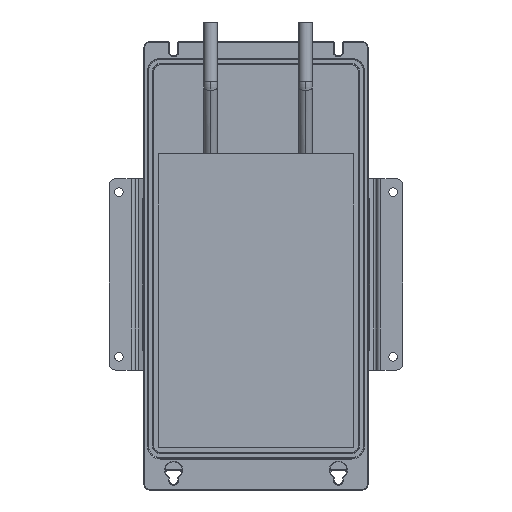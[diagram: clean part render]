
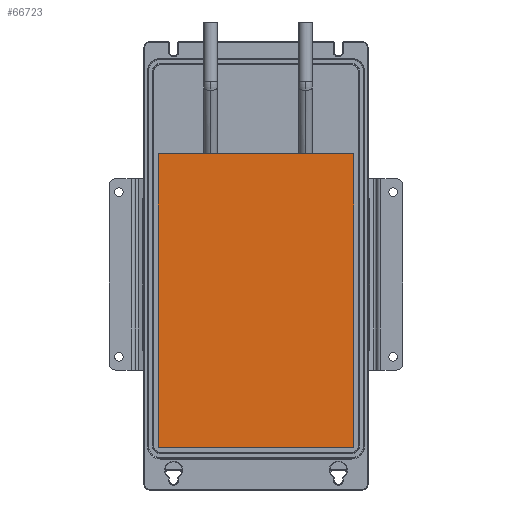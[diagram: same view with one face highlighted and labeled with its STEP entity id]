
A CAD part, front view. The second image highlights one B-rep face of the part: STEP entity #66723.
In plain terms, the highlighted planar face has unit normal (0, -1, 0).
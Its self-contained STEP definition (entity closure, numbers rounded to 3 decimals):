
#774 = CARTESIAN_POINT ( 'NONE',  ( 74., -19.5, -5. ) ) ;
#1242 = EDGE_CURVE ( 'NONE', #57552, #25046, #53733, .T. ) ;
#4278 = VECTOR ( 'NONE', #6607, 1000. ) ;
#6607 = DIRECTION ( 'NONE',  ( 1., 0., 0. ) ) ;
#8353 = ORIENTED_EDGE ( 'NONE', *, *, #1242, .T. ) ;
#9716 = ORIENTED_EDGE ( 'NONE', *, *, #43840, .T. ) ;
#10155 = CARTESIAN_POINT ( 'NONE',  ( -74., -19.5, -5. ) ) ;
#10475 = ORIENTED_EDGE ( 'NONE', *, *, #25286, .T. ) ;
#10539 = LINE ( 'NONE', #40333, #36412 ) ;
#11304 = DIRECTION ( 'NONE',  ( 0., 0., 1. ) ) ;
#11431 = ORIENTED_EDGE ( 'NONE', *, *, #14997, .T. ) ;
#14997 = EDGE_CURVE ( 'NONE', #71606, #67697, #35208, .T. ) ;
#17205 = FACE_OUTER_BOUND ( 'NONE', #39332, .T. ) ;
#19971 = AXIS2_PLACEMENT_3D ( 'NONE', #47401, #53600, #65562 ) ;
#23086 = CARTESIAN_POINT ( 'NONE',  ( 74., -19.5, -5. ) ) ;
#24293 = DIRECTION ( 'NONE',  ( -1., 0., 0. ) ) ;
#25046 = VERTEX_POINT ( 'NONE', #36127 ) ;
#25286 = EDGE_CURVE ( 'NONE', #67697, #57552, #10539, .T. ) ;
#25349 = VECTOR ( 'NONE', #44588, 1000. ) ;
#35208 = LINE ( 'NONE', #65388, #4278 ) ;
#36127 = CARTESIAN_POINT ( 'NONE',  ( -74., -19.5, -5. ) ) ;
#36412 = VECTOR ( 'NONE', #11304, 1000. ) ;
#39332 = EDGE_LOOP ( 'NONE', ( #10475, #8353, #9716, #11431 ) ) ;
#40333 = CARTESIAN_POINT ( 'NONE',  ( 74., -19.5, -5. ) ) ;
#42683 = VECTOR ( 'NONE', #24293, 1000. ) ;
#42819 = CARTESIAN_POINT ( 'NONE',  ( 74., -19.5, -228. ) ) ;
#43840 = EDGE_CURVE ( 'NONE', #25046, #71606, #68953, .T. ) ;
#44588 = DIRECTION ( 'NONE',  ( 0., 0., -1. ) ) ;
#47401 = CARTESIAN_POINT ( 'NONE',  ( 0., -19.5, -5. ) ) ;
#53600 = DIRECTION ( 'NONE',  ( 0., 1., 0. ) ) ;
#53733 = LINE ( 'NONE', #774, #42683 ) ;
#57552 = VERTEX_POINT ( 'NONE', #23086 ) ;
#58535 = CARTESIAN_POINT ( 'NONE',  ( -74., -19.5, -228. ) ) ;
#59023 = PLANE ( 'NONE',  #19971 ) ;
#65388 = CARTESIAN_POINT ( 'NONE',  ( 74., -19.5, -228. ) ) ;
#65562 = DIRECTION ( 'NONE',  ( -1., 0., 0. ) ) ;
#66723 = ADVANCED_FACE ( 'NONE', ( #17205 ), #59023, .F. ) ;
#67697 = VERTEX_POINT ( 'NONE', #42819 ) ;
#68953 = LINE ( 'NONE', #10155, #25349 ) ;
#71606 = VERTEX_POINT ( 'NONE', #58535 ) ;
